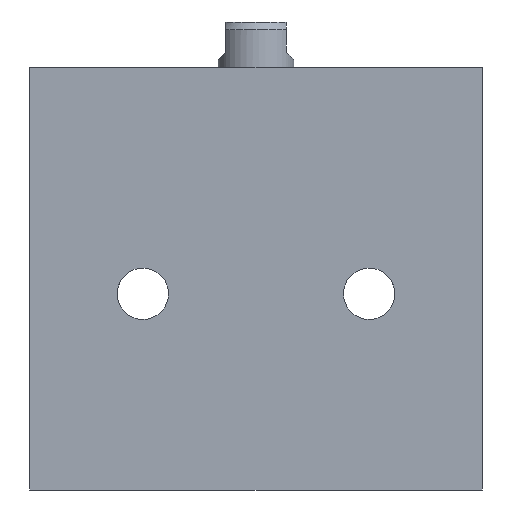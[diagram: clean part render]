
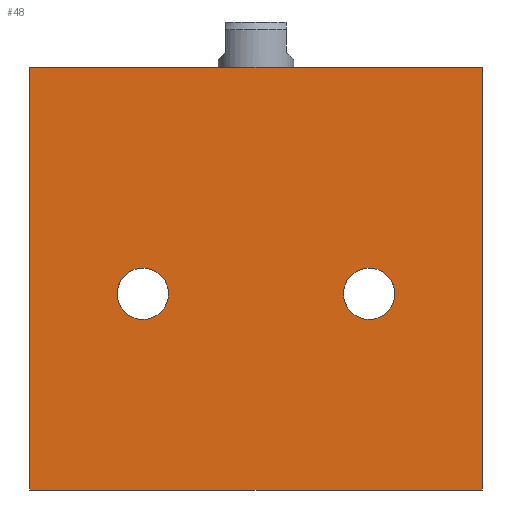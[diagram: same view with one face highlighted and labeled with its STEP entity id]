
A CAD part, front view. The second image highlights one B-rep face of the part: STEP entity #48.
In plain terms, the highlighted planar face has unit normal (0, -1, 0).
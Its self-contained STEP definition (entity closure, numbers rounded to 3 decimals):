
#48 = ADVANCED_FACE ( 'NONE', ( #1176, #1210, #1177 ), #325, .F. ) ;
#197 = CARTESIAN_POINT ( 'NONE',  ( -15., -17.5, 26. ) ) ;
#200 = DIRECTION ( 'NONE',  ( 0., 0., 1. ) ) ;
#202 = DIRECTION ( 'NONE',  ( 0., 1., 0. ) ) ;
#264 = CARTESIAN_POINT ( 'NONE',  ( -30., -17.5, 0. ) ) ;
#266 = CARTESIAN_POINT ( 'NONE',  ( -30., -17.5, 56. ) ) ;
#268 = CARTESIAN_POINT ( 'NONE',  ( 30., -17.5, 56. ) ) ;
#271 = DIRECTION ( 'NONE',  ( 0., 1., 0. ) ) ;
#323 = DIRECTION ( 'NONE',  ( 0., 0., 1. ) ) ;
#325 = PLANE ( 'NONE',  #2422 ) ;
#327 = CARTESIAN_POINT ( 'NONE',  ( -30., -17.5, 56. ) ) ;
#370 = CARTESIAN_POINT ( 'NONE',  ( 15., -17.5, 29.4 ) ) ;
#373 = CARTESIAN_POINT ( 'NONE',  ( 15., -17.5, 22.6 ) ) ;
#385 = CARTESIAN_POINT ( 'NONE',  ( -15., -17.5, 22.6 ) ) ;
#388 = CARTESIAN_POINT ( 'NONE',  ( -15., -17.5, 29.4 ) ) ;
#401 = CARTESIAN_POINT ( 'NONE',  ( 30., -17.5, 0. ) ) ;
#752 = VERTEX_POINT ( 'NONE', #370 ) ;
#755 = VERTEX_POINT ( 'NONE', #373 ) ;
#770 = VERTEX_POINT ( 'NONE', #385 ) ;
#773 = VERTEX_POINT ( 'NONE', #388 ) ;
#780 = EDGE_LOOP ( 'NONE', ( #851, #852, #853, #854 ) ) ;
#781 = EDGE_LOOP ( 'NONE', ( #847, #848 ) ) ;
#799 = EDGE_LOOP ( 'NONE', ( #849, #850 ) ) ;
#847 = ORIENTED_EDGE ( 'NONE', *, *, #2464, .T. ) ;
#848 = ORIENTED_EDGE ( 'NONE', *, *, #2505, .T. ) ;
#849 = ORIENTED_EDGE ( 'NONE', *, *, #2458, .T. ) ;
#850 = ORIENTED_EDGE ( 'NONE', *, *, #1279, .T. ) ;
#851 = ORIENTED_EDGE ( 'NONE', *, *, #2459, .T. ) ;
#852 = ORIENTED_EDGE ( 'NONE', *, *, #2451, .F. ) ;
#853 = ORIENTED_EDGE ( 'NONE', *, *, #2462, .F. ) ;
#854 = ORIENTED_EDGE ( 'NONE', *, *, #2438, .T. ) ;
#886 = VERTEX_POINT ( 'NONE', #401 ) ;
#888 = VERTEX_POINT ( 'NONE', #268 ) ;
#889 = VERTEX_POINT ( 'NONE', #264 ) ;
#891 = VERTEX_POINT ( 'NONE', #266 ) ;
#1176 = FACE_BOUND ( 'NONE', #781, .T. ) ;
#1177 = FACE_OUTER_BOUND ( 'NONE', #780, .T. ) ;
#1210 = FACE_BOUND ( 'NONE', #799, .T. ) ;
#1279 = EDGE_CURVE ( 'NONE', #770, #773, #2268, .T. ) ;
#1360 = CARTESIAN_POINT ( 'NONE',  ( 15., -17.5, 26. ) ) ;
#1434 = DIRECTION ( 'NONE',  ( 0., 0., 1. ) ) ;
#1456 = DIRECTION ( 'NONE',  ( 0., 1., 0. ) ) ;
#1570 = DIRECTION ( 'NONE',  ( 0., 1., 0. ) ) ;
#1596 = DIRECTION ( 'NONE',  ( 0., 0., 1. ) ) ;
#1609 = DIRECTION ( 'NONE',  ( 0., 0., -1. ) ) ;
#1657 = DIRECTION ( 'NONE',  ( 0., 0., -1. ) ) ;
#1696 = CARTESIAN_POINT ( 'NONE',  ( 15., -17.5, 26. ) ) ;
#1739 = CARTESIAN_POINT ( 'NONE',  ( -30., -17.5, 56. ) ) ;
#1751 = CARTESIAN_POINT ( 'NONE',  ( -30., -17.5, 0. ) ) ;
#1754 = DIRECTION ( 'NONE',  ( 1., 0., 0. ) ) ;
#1775 = DIRECTION ( 'NONE',  ( 0., 1., 0. ) ) ;
#1781 = CARTESIAN_POINT ( 'NONE',  ( -15., -17.5, 26. ) ) ;
#1785 = DIRECTION ( 'NONE',  ( 0., 0., 1. ) ) ;
#1786 = DIRECTION ( 'NONE',  ( 1., 0., 0. ) ) ;
#1787 = CARTESIAN_POINT ( 'NONE',  ( -30., -17.5, 56. ) ) ;
#1790 = CARTESIAN_POINT ( 'NONE',  ( 30., -17.5, 56. ) ) ;
#1908 = CIRCLE ( 'NONE', #2347, 3.4 ) ;
#1910 = LINE ( 'NONE', #1751, #2060 ) ;
#1936 = VECTOR ( 'NONE', #1657, 1000. ) ;
#2060 = VECTOR ( 'NONE', #1754, 1000. ) ;
#2061 = LINE ( 'NONE', #1787, #2066 ) ;
#2065 = CIRCLE ( 'NONE', #2346, 3.4 ) ;
#2066 = VECTOR ( 'NONE', #1786, 1000. ) ;
#2148 = CIRCLE ( 'NONE', #2332, 3.4 ) ;
#2174 = VECTOR ( 'NONE', #1609, 1000. ) ;
#2182 = LINE ( 'NONE', #1790, #1936 ) ;
#2219 = LINE ( 'NONE', #1739, #2174 ) ;
#2268 = CIRCLE ( 'NONE', #2400, 3.4 ) ;
#2332 = AXIS2_PLACEMENT_3D ( 'NONE', #1696, #1570, #1596 ) ;
#2346 = AXIS2_PLACEMENT_3D ( 'NONE', #1360, #1456, #1434 ) ;
#2347 = AXIS2_PLACEMENT_3D ( 'NONE', #1781, #1775, #1785 ) ;
#2400 = AXIS2_PLACEMENT_3D ( 'NONE', #197, #202, #200 ) ;
#2422 = AXIS2_PLACEMENT_3D ( 'NONE', #327, #271, #323 ) ;
#2438 = EDGE_CURVE ( 'NONE', #891, #889, #2219, .T. ) ;
#2451 = EDGE_CURVE ( 'NONE', #888, #886, #2182, .T. ) ;
#2458 = EDGE_CURVE ( 'NONE', #773, #770, #1908, .T. ) ;
#2459 = EDGE_CURVE ( 'NONE', #889, #886, #1910, .T. ) ;
#2462 = EDGE_CURVE ( 'NONE', #891, #888, #2061, .T. ) ;
#2464 = EDGE_CURVE ( 'NONE', #752, #755, #2065, .T. ) ;
#2505 = EDGE_CURVE ( 'NONE', #755, #752, #2148, .T. ) ;
